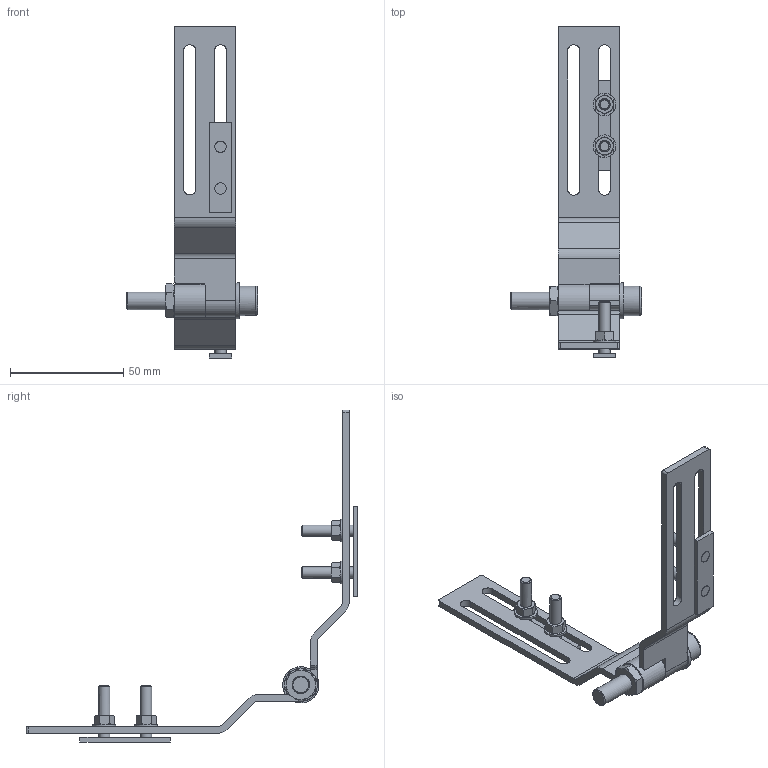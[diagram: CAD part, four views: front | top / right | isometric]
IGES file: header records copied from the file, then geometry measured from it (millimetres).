
Global section: file name: C:\Documents and Settings\LRossetti\Desktop\DIM e DSD per CD SG2_4b_4E\DSD-0488_L2.igs; native system: NX V7.5; preprocessor: SIEMENS PLM Software NX 7.5; date: 20111115.101951; units: millimetre
Bounding box: 58 x 146.75 x 146.75 mm (x, y, z)
Surface area: 40008.4 mm2 (no closed solid volume)
Topology: 0 solids, 0 shells, 264 faces, 1707 edges, 1675 vertices
Faces by surface type: bspline 264
